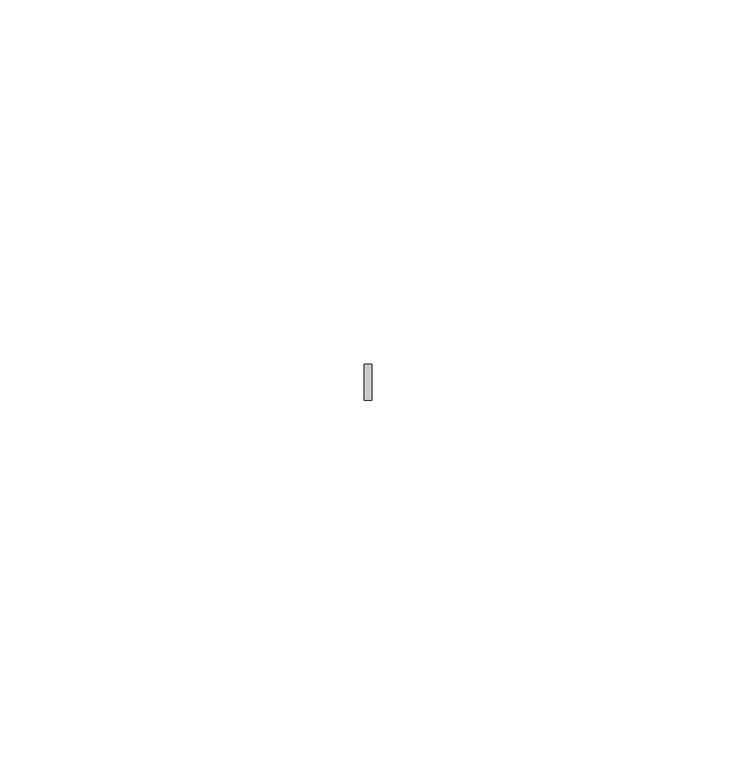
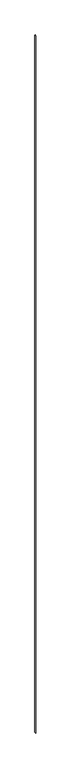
"""IFC4 building model written with IfcOpenShell, lengths in millimetres: member geometry, Прямоугольный импост : 3-AMG-2-Профиль (скотч 3М) 1 средний."""

from ifc_helpers import new_model, si_unit, frame, origin, place, context, project, spatial, polyline, outline, extrude, source, transform, mapped, element, save


def member_2709d313(model_context):
    return source(origin(), model_context, "Body", "SweptSolid", [
        extrude(outline(polyline([(0.5087396, -34.5), (-0.5292752, -34.5), (-0.5292752, -29.5), (0.5087396, -29.5), (0.5087396, -34.5)])), frame((0.0, 0.0, -2748.0), z_axis=(0.0, 0.0, 1.0), x_axis=(1.0, 0.0, 0.0)), (0.0, 0.0, 1.0), 2748.0),
    ])


if __name__ == "__main__":
    model = new_model("IFC4")
    model_context = context("Model", 3, world=origin())
    ifc_project = project(units=[si_unit("LENGTHUNIT", "METRE", prefix="MILLI")], contexts=[model_context])
    site = spatial("IfcSite", under=ifc_project)
    building = spatial("IfcBuilding", under=site)
    placement = place(None, origin())
    member_shape = member_2709d313(model_context)
    element("IfcMember", 1, ObjectType="Прямоугольный импост : 3-AMG-2-Профиль (скотч 3М) 1 средний", at=placement, inside=building, context=model_context, shape_type="MappedRepresentation", body=[
        mapped(member_shape, transform((0.0, 0.0, 0.0), x_axis=(1.0, 0.0, 0.0), y_axis=(0.0, 1.0, 0.0), z_axis=(0.0, 0.0, 1.0))),
    ])
    save(model, "model.ifc")
